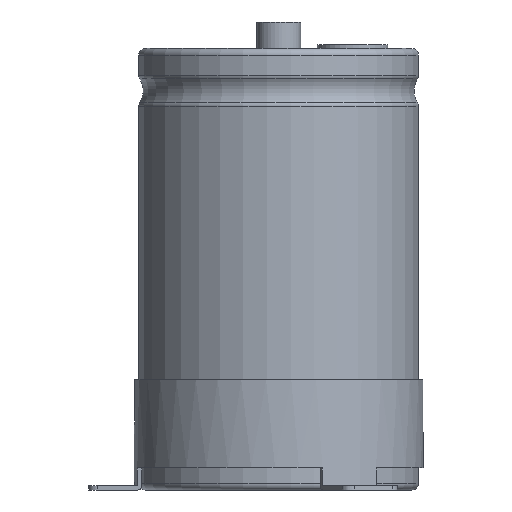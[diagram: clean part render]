
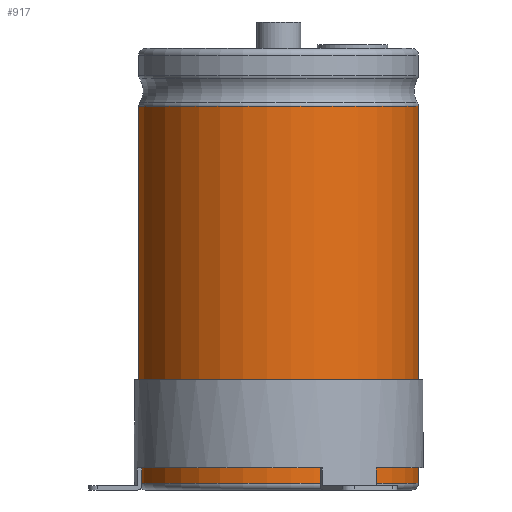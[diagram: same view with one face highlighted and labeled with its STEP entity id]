
A CAD part, front view. The second image highlights one B-rep face of the part: STEP entity #917.
In plain terms, the highlighted cylindrical face has radius 31.75 mm (diameter 63.5 mm), a partial arc.
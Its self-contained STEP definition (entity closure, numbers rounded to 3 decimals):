
#917=ADVANCED_FACE('',(#1213),#1039,.T.);
#1039=CYLINDRICAL_SURFACE('',#4878,31.75);
#1213=FACE_OUTER_BOUND('',#1474,.T.);
#1474=EDGE_LOOP('',(#2748,#2749,#2750,#2751));
#1758=CIRCLE('',#4875,31.75);
#1759=CIRCLE('',#4877,31.75);
#2748=ORIENTED_EDGE('',*,*,#3929,.T.);
#2749=ORIENTED_EDGE('',*,*,#3930,.T.);
#2750=ORIENTED_EDGE('',*,*,#3931,.F.);
#2751=ORIENTED_EDGE('',*,*,#3932,.F.);
#3366=VERTEX_POINT('',#7964);
#3368=VERTEX_POINT('',#7968);
#3369=VERTEX_POINT('',#7972);
#3370=VERTEX_POINT('',#7974);
#3929=EDGE_CURVE('',#3366,#3368,#1758,.T.);
#3930=EDGE_CURVE('',#3368,#3369,#4255,.T.);
#3931=EDGE_CURVE('',#3370,#3369,#1759,.T.);
#3932=EDGE_CURVE('',#3366,#3370,#4256,.T.);
#4255=LINE('',#7971,#4469);
#4256=LINE('',#7975,#4470);
#4469=VECTOR('',#5936,1.);
#4470=VECTOR('',#5939,1.);
#4875=AXIS2_PLACEMENT_3D('',#7969,#5932,#5933);
#4877=AXIS2_PLACEMENT_3D('',#7973,#5937,#5938);
#4878=AXIS2_PLACEMENT_3D('',#7976,#5940,#5941);
#5932=DIRECTION('',(0.,0.,-1.));
#5933=DIRECTION('',(0.,1.,0.));
#5936=DIRECTION('',(0.,0.,-1.));
#5937=DIRECTION('',(0.,0.,-1.));
#5938=DIRECTION('',(0.,1.,0.));
#5939=DIRECTION('',(0.,0.,-1.));
#5940=DIRECTION('',(0.,0.,-1.));
#5941=DIRECTION('',(0.,1.,0.));
#7964=CARTESIAN_POINT('',(4.007,31.496,86.9));
#7968=CARTESIAN_POINT('',(-4.007,31.496,86.9));
#7969=CARTESIAN_POINT('',(0.,0.,86.9));
#7971=CARTESIAN_POINT('',(-4.007,31.496,86.9));
#7972=CARTESIAN_POINT('',(-4.007,31.496,1.5));
#7973=CARTESIAN_POINT('',(0.,0.,1.5));
#7974=CARTESIAN_POINT('',(4.007,31.496,1.5));
#7975=CARTESIAN_POINT('',(4.007,31.496,86.9));
#7976=CARTESIAN_POINT('',(0.,0.,0.));
